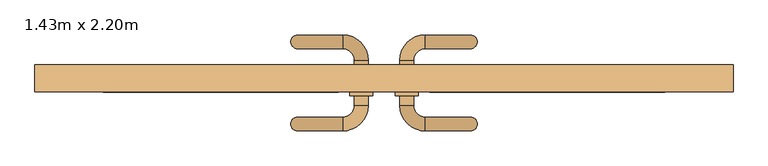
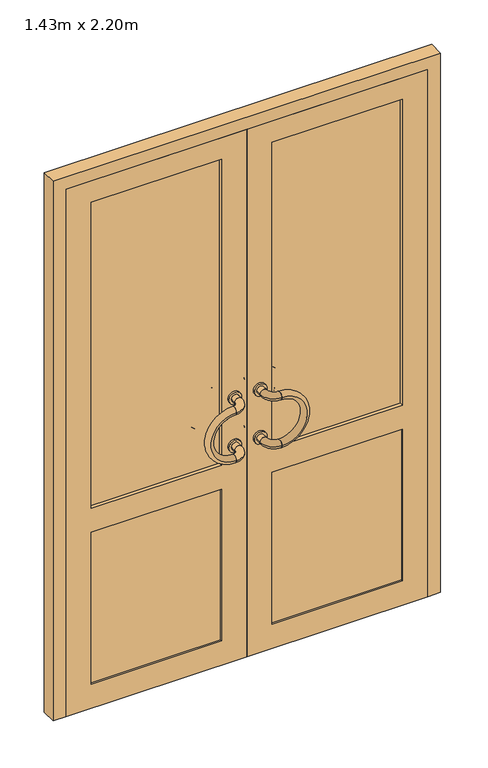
"""IFC4 building model written with IfcOpenShell, lengths in millimetres: door geometry, PVC Double - Panneaux vitrés haut : 1.43m x 2.20m."""

from ifc_helpers import new_model, si_unit, point, frame, frame_2d, origin, place, context, project, spatial, polyline, circle_curve, ellipse_curve, trimmed, segment, composite_curve, outline, extrude, faceted_brep, source, transform, mapped, element, save
from ifc_brep_helpers import plane_surface, revolved_surface, advanced_brep


def door_1_43m_x_2_20m_f836d71d(model_context):
    return source(origin(), model_context, "Body", "SolidModel", [
        extrude(outline(composite_curve([segment(trimmed(circle_curve(frame_2d((1100.0, -50.0)), 25.0), [point((1100.0, -25.0))], [point((1100.0, -75.0))], False, "CARTESIAN"), True, "CONTINUOUS"), segment(trimmed(circle_curve(frame_2d((1100.0, -50.0)), 25.0), [point((1100.0, -75.0))], [point((1100.0, -25.0))], False, "CARTESIAN"), True, "CONTINUOUS")], self_intersect=False), holes=[composite_curve([segment(trimmed(circle_curve(frame_2d((1100.0, -50.0)), 15.0), [point((1100.0, -35.0))], [point((1100.0, -65.0))], True, "CARTESIAN"), True, "CONTINUOUS"), segment(trimmed(circle_curve(frame_2d((1100.0, -50.0)), 15.0), [point((1100.0, -65.0))], [point((1100.0, -35.0))], True, "CARTESIAN"), True, "CONTINUOUS")], self_intersect=False)]), frame((0.0, -70.0, 0.0), z_axis=(0.0, 1.0, 0.0), x_axis=(0.0, 0.0, 1.0)), (0.0, 0.0, 1.0), 8.0),
        extrude(outline(composite_curve([segment(trimmed(circle_curve(frame_2d((900.0, -50.0)), 25.0), [point((900.0, -25.0))], [point((900.0, -75.0))], False, "CARTESIAN"), True, "CONTINUOUS"), segment(trimmed(circle_curve(frame_2d((900.0, -50.0)), 25.0), [point((900.0, -75.0))], [point((900.0, -25.0))], False, "CARTESIAN"), True, "CONTINUOUS")], self_intersect=False), holes=[composite_curve([segment(trimmed(circle_curve(frame_2d((900.0, -50.0)), 15.0), [point((900.0, -35.0))], [point((900.0, -65.0))], True, "CARTESIAN"), True, "CONTINUOUS"), segment(trimmed(circle_curve(frame_2d((900.0, -50.0)), 15.0), [point((900.0, -65.0))], [point((900.0, -35.0))], True, "CARTESIAN"), True, "CONTINUOUS")], self_intersect=False)]), frame((0.0, -70.0, 0.0), z_axis=(0.0, 1.0, 0.0), x_axis=(0.0, 0.0, 1.0)), (0.0, 0.0, 1.0), 8.0),
        extrude(outline(composite_curve([segment(trimmed(circle_curve(frame_2d((1100.0, -50.0)), 25.0), [point((1100.0, -25.0))], [point((1100.0, -75.0))], False, "CARTESIAN"), True, "CONTINUOUS"), segment(trimmed(circle_curve(frame_2d((1100.0, -50.0)), 25.0), [point((1100.0, -75.0))], [point((1100.0, -25.0))], False, "CARTESIAN"), True, "CONTINUOUS")], self_intersect=False), holes=[composite_curve([segment(trimmed(circle_curve(frame_2d((1100.0, -50.0)), 15.0), [point((1100.0, -35.0))], [point((1100.0, -65.0))], True, "CARTESIAN"), True, "CONTINUOUS"), segment(trimmed(circle_curve(frame_2d((1100.0, -50.0)), 15.0), [point((1100.0, -65.0))], [point((1100.0, -35.0))], True, "CARTESIAN"), True, "CONTINUOUS")], self_intersect=False)]), frame((0.0, -118.0, 0.0), z_axis=(0.0, 1.0, 0.0), x_axis=(0.0, 0.0, 1.0)), (0.0, 0.0, 1.0), 8.0),
        extrude(outline(composite_curve([segment(trimmed(circle_curve(frame_2d((900.0, -50.0)), 25.0), [point((900.0, -25.0))], [point((900.0, -75.0))], False, "CARTESIAN"), True, "CONTINUOUS"), segment(trimmed(circle_curve(frame_2d((900.0, -50.0)), 25.0), [point((900.0, -75.0))], [point((900.0, -25.0))], False, "CARTESIAN"), True, "CONTINUOUS")], self_intersect=False), holes=[composite_curve([segment(trimmed(circle_curve(frame_2d((900.0, -50.0)), 15.0), [point((900.0, -35.0))], [point((900.0, -65.0))], True, "CARTESIAN"), True, "CONTINUOUS"), segment(trimmed(circle_curve(frame_2d((900.0, -50.0)), 15.0), [point((900.0, -65.0))], [point((900.0, -35.0))], True, "CARTESIAN"), True, "CONTINUOUS")], self_intersect=False)]), frame((0.0, -118.0, 0.0), z_axis=(0.0, 1.0, 0.0), x_axis=(0.0, 0.0, 1.0)), (0.0, 0.0, 1.0), 8.0),
        advanced_brep(
        [(-90.0, 15.0, 1100.0), (-90.0, -15.0, 1100.0), (-90.0, 15.0, 900.0), (-90.0, -15.0, 900.0)],
        [
            (0, 1, circle_curve(frame((-90.0, 0.0, 1100.0), z_axis=(1.0, 0.0, 0.0), x_axis=(0.0, -1.0, 0.0)), 15.0)),
            (1, 0, circle_curve(frame((-90.0, 0.0, 1100.0), z_axis=(1.0, 0.0, 0.0), x_axis=(0.0, -1.0, 0.0)), 15.0)),
            (2, 3, circle_curve(frame((-90.0, 0.0, 900.0), z_axis=(1.0, 0.0, 0.0), x_axis=(0.0, -1.0, 0.0)), 15.0)),
            (3, 2, circle_curve(frame((-90.0, 0.0, 900.0), z_axis=(1.0, 0.0, 0.0), x_axis=(0.0, -1.0, 0.0)), 15.0)),
            (2, 0, circle_curve(frame((-90.0, 15.0, 1000.0), z_axis=(0.0, 1.0, 0.0), x_axis=(0.0, 0.0, 1.0)), 100.0)),
            (1, 3, circle_curve(frame((-90.0, -15.0, 1000.0), z_axis=(0.0, -1.0, 0.0), x_axis=(0.0, 0.0, 1.0)), 100.0)),
        ],
        [
            plane_surface(frame((-90.0, 0.0, 1000.0), z_axis=(1.0, 0.0, 0.0), x_axis=(0.0, 0.0, 1.0))),
            plane_surface(frame((-90.0, 0.0, 1000.0), z_axis=(1.0, 0.0, 0.0), x_axis=(0.0, 0.0, -1.0))),
            revolved_surface(trimmed(ellipse_curve(frame((-90.0, 0.0, 1100.0), z_axis=(-1.0, 0.0, 0.0), x_axis=(0.0, -1.0, 0.0)), 15.0, 15.0), [point((-90.0, 15.0, 1100.0))], [point((-90.0, -15.0, 1100.0))], True, "CARTESIAN"), (-90.0, 0.0, 1000.0), (0.0, 1.0, 0.0)),
            revolved_surface(trimmed(ellipse_curve(frame((-90.0, 0.0, 1100.0), z_axis=(-1.0, 0.0, 0.0), x_axis=(0.0, -1.0, 0.0)), 15.0, 15.0), [point((-90.0, -15.0, 1100.0))], [point((-90.0, 15.0, 1100.0))], True, "CARTESIAN"), (-90.0, 0.0, 1000.0), (0.0, 1.0, 0.0)),
        ],
        [
            (0, [[1, 2]]),
            (1, [[3, 4]]),
            (2, [[-3, 5, -2, 6]]),
            (3, [[-4, -6, -1, -5]]),
        ],
    ),
        advanced_brep(
        [(-65.0, -40.0, 1100.0), (-35.0, -40.0, 1100.0), (-90.0, -15.0, 1100.0), (-90.0, 15.0, 1100.0)],
        [
            (0, 1, circle_curve(frame((-50.0, -40.0, 1100.0), z_axis=(0.0, -1.0, 0.0), x_axis=(1.0, 0.0, 0.0)), 15.0)),
            (1, 0, circle_curve(frame((-50.0, -40.0, 1100.0), z_axis=(0.0, -1.0, 0.0), x_axis=(1.0, 0.0, 0.0)), 15.0)),
            (2, 3, circle_curve(frame((-90.0, 0.0, 1100.0), z_axis=(-1.0, 0.0, 0.0), x_axis=(0.0, 1.0, 0.0)), 15.0)),
            (3, 2, circle_curve(frame((-90.0, 0.0, 1100.0), z_axis=(-1.0, 0.0, 0.0), x_axis=(0.0, 1.0, 0.0)), 15.0)),
            (2, 0, circle_curve(frame((-90.0, -40.0, 1100.0), z_axis=(0.0, 0.0, -1.0), x_axis=(1.0, 0.0, 0.0)), 25.0)),
            (1, 3, circle_curve(frame((-90.0, -40.0, 1100.0), z_axis=(0.0, 0.0, 1.0), x_axis=(1.0, 0.0, 0.0)), 55.0)),
        ],
        [
            plane_surface(frame((-90.0, -40.0, 1100.0), z_axis=(0.0, -1.0, 0.0), x_axis=(1.0, 0.0, 0.0))),
            plane_surface(frame((-90.0, -40.0, 1100.0), z_axis=(-1.0, 0.0, 0.0), x_axis=(0.0, 1.0, 0.0))),
            revolved_surface(trimmed(ellipse_curve(frame((-50.0, -40.0, 1100.0), z_axis=(0.0, 1.0, 0.0), x_axis=(1.0, 0.0, 0.0)), 15.0, 15.0), [point((-65.0, -40.0, 1100.0))], [point((-35.0, -40.0, 1100.0))], True, "CARTESIAN"), (-90.0, -40.0, 1100.0), (0.0, 0.0, -1.0)),
            revolved_surface(trimmed(ellipse_curve(frame((-50.0, -40.0, 1100.0), z_axis=(0.0, 1.0, 0.0), x_axis=(1.0, 0.0, 0.0)), 15.0, 15.0), [point((-35.0, -40.0, 1100.0))], [point((-65.0, -40.0, 1100.0))], True, "CARTESIAN"), (-90.0, -40.0, 1100.0), (0.0, 0.0, -1.0)),
        ],
        [
            (0, [[1, 2]]),
            (1, [[3, 4]]),
            (2, [[-3, 5, -2, 6]]),
            (3, [[-4, -6, -1, -5]]),
        ],
    ),
        advanced_brep(
        [(-65.0, -40.0, 900.0), (-35.0, -40.0, 900.0), (-90.0, -15.0, 900.0), (-90.0, 15.0, 900.0)],
        [
            (0, 1, circle_curve(frame((-50.0, -40.0, 900.0), z_axis=(0.0, -1.0, 0.0), x_axis=(1.0, 0.0, 0.0)), 15.0)),
            (1, 0, circle_curve(frame((-50.0, -40.0, 900.0), z_axis=(0.0, -1.0, 0.0), x_axis=(1.0, 0.0, 0.0)), 15.0)),
            (2, 3, circle_curve(frame((-90.0, 0.0, 900.0), z_axis=(-1.0, 0.0, 0.0), x_axis=(0.0, 1.0, 0.0)), 15.0)),
            (3, 2, circle_curve(frame((-90.0, 0.0, 900.0), z_axis=(-1.0, 0.0, 0.0), x_axis=(0.0, 1.0, 0.0)), 15.0)),
            (2, 0, circle_curve(frame((-90.0, -40.0, 900.0), z_axis=(0.0, 0.0, -1.0), x_axis=(1.0, 0.0, 0.0)), 25.0)),
            (1, 3, circle_curve(frame((-90.0, -40.0, 900.0), z_axis=(0.0, 0.0, 1.0), x_axis=(1.0, 0.0, 0.0)), 55.0)),
        ],
        [
            plane_surface(frame((-90.0, -40.0, 1100.0), z_axis=(0.0, -1.0, 0.0), x_axis=(1.0, 0.0, 0.0))),
            plane_surface(frame((-90.0, -40.0, 1100.0), z_axis=(-1.0, 0.0, 0.0), x_axis=(0.0, 1.0, 0.0))),
            revolved_surface(trimmed(ellipse_curve(frame((-50.0, -40.0, 900.0), z_axis=(0.0, 1.0, 0.0), x_axis=(1.0, 0.0, 0.0)), 15.0, 15.0), [point((-65.0, -40.0, 900.0))], [point((-35.0, -40.0, 900.0))], True, "CARTESIAN"), (-90.0, -40.0, 1100.0), (0.0, 0.0, -1.0)),
            revolved_surface(trimmed(ellipse_curve(frame((-50.0, -40.0, 900.0), z_axis=(0.0, 1.0, 0.0), x_axis=(1.0, 0.0, 0.0)), 15.0, 15.0), [point((-35.0, -40.0, 900.0))], [point((-65.0, -40.0, 900.0))], True, "CARTESIAN"), (-90.0, -40.0, 1100.0), (0.0, 0.0, -1.0)),
        ],
        [
            (0, [[1, 2]]),
            (1, [[3, 4]]),
            (2, [[-3, 5, -2, 6]]),
            (3, [[-4, -6, -1, -5]]),
        ],
    ),
        extrude(outline(composite_curve([segment(trimmed(circle_curve(frame_2d((1100.0, -50.0)), 15.0), [point((1100.0, -35.0))], [point((1100.0, -65.0))], False, "CARTESIAN"), True, "CONTINUOUS"), segment(trimmed(circle_curve(frame_2d((1100.0, -50.0)), 15.0), [point((1100.0, -65.0))], [point((1100.0, -35.0))], False, "CARTESIAN"), True, "CONTINUOUS")], self_intersect=False)), frame((0.0, -70.0, 0.0), z_axis=(0.0, 1.0, 0.0), x_axis=(0.0, 0.0, 1.0)), (0.0, 0.0, 1.0), 30.0),
        extrude(outline(composite_curve([segment(trimmed(circle_curve(frame_2d((900.0, -50.0)), 15.0), [point((900.0, -35.0))], [point((900.0, -65.0))], False, "CARTESIAN"), True, "CONTINUOUS"), segment(trimmed(circle_curve(frame_2d((900.0, -50.0)), 15.0), [point((900.0, -65.0))], [point((900.0, -35.0))], False, "CARTESIAN"), True, "CONTINUOUS")], self_intersect=False)), frame((0.0, -70.0, 0.0), z_axis=(0.0, 1.0, 0.0), x_axis=(0.0, 0.0, 1.0)), (0.0, 0.0, 1.0), 30.0),
        advanced_brep(
        [(-90.0, -165.0, 1100.0), (-90.0, -195.0, 1100.0), (-90.0, -165.0, 900.0), (-90.0, -195.0, 900.0)],
        [
            (0, 1, circle_curve(frame((-90.0, -180.0, 1100.0), z_axis=(1.0, 0.0, 0.0), x_axis=(0.0, -1.0, 0.0)), 15.0)),
            (1, 0, circle_curve(frame((-90.0, -180.0, 1100.0), z_axis=(1.0, 0.0, 0.0), x_axis=(0.0, -1.0, 0.0)), 15.0)),
            (2, 3, circle_curve(frame((-90.0, -180.0, 900.0), z_axis=(1.0, 0.0, 0.0), x_axis=(0.0, -1.0, 0.0)), 15.0)),
            (3, 2, circle_curve(frame((-90.0, -180.0, 900.0), z_axis=(1.0, 0.0, 0.0), x_axis=(0.0, -1.0, 0.0)), 15.0)),
            (2, 0, circle_curve(frame((-90.0, -165.0, 1000.0), z_axis=(0.0, 1.0, 0.0), x_axis=(0.0, 0.0, 1.0)), 100.0)),
            (1, 3, circle_curve(frame((-90.0, -195.0, 1000.0), z_axis=(0.0, -1.0, 0.0), x_axis=(0.0, 0.0, 1.0)), 100.0)),
        ],
        [
            plane_surface(frame((-90.0, -195.0, 1000.0), z_axis=(1.0, 0.0, 0.0), x_axis=(0.0, 0.0, 1.0))),
            plane_surface(frame((-90.0, -195.0, 1000.0), z_axis=(1.0, 0.0, 0.0), x_axis=(0.0, 0.0, -1.0))),
            revolved_surface(trimmed(ellipse_curve(frame((-90.0, -180.0, 1100.0), z_axis=(-1.0, 0.0, 0.0), x_axis=(0.0, -1.0, 0.0)), 15.0, 15.0), [point((-90.0, -165.0, 1100.0))], [point((-90.0, -195.0, 1100.0))], True, "CARTESIAN"), (-90.0, -195.0, 1000.0), (0.0, 1.0, 0.0)),
            revolved_surface(trimmed(ellipse_curve(frame((-90.0, -180.0, 1100.0), z_axis=(-1.0, 0.0, 0.0), x_axis=(0.0, -1.0, 0.0)), 15.0, 15.0), [point((-90.0, -195.0, 1100.0))], [point((-90.0, -165.0, 1100.0))], True, "CARTESIAN"), (-90.0, -195.0, 1000.0), (0.0, 1.0, 0.0)),
        ],
        [
            (0, [[1, 2]]),
            (1, [[3, 4]]),
            (2, [[-3, 5, -2, 6]]),
            (3, [[-4, -6, -1, -5]]),
        ],
    ),
        advanced_brep(
        [(-35.0, -140.0, 1100.0), (-65.0, -140.0, 1100.0), (-90.0, -195.0, 1100.0), (-90.0, -165.0, 1100.0)],
        [
            (0, 1, circle_curve(frame((-50.0, -140.0, 1100.0), z_axis=(0.0, 1.0, 0.0), x_axis=(-1.0, 0.0, 0.0)), 15.0)),
            (1, 0, circle_curve(frame((-50.0, -140.0, 1100.0), z_axis=(0.0, 1.0, 0.0), x_axis=(-1.0, 0.0, 0.0)), 15.0)),
            (2, 3, circle_curve(frame((-90.0, -180.0, 1100.0), z_axis=(-1.0, 0.0, 0.0), x_axis=(0.0, 1.0, 0.0)), 15.0)),
            (3, 2, circle_curve(frame((-90.0, -180.0, 1100.0), z_axis=(-1.0, 0.0, 0.0), x_axis=(0.0, 1.0, 0.0)), 15.0)),
            (2, 0, circle_curve(frame((-90.0, -140.0, 1100.0), z_axis=(0.0, 0.0, 1.0), x_axis=(1.0, 0.0, 0.0)), 55.0)),
            (1, 3, circle_curve(frame((-90.0, -140.0, 1100.0), z_axis=(0.0, 0.0, -1.0), x_axis=(1.0, 0.0, 0.0)), 25.0)),
        ],
        [
            plane_surface(frame((-90.0, -140.0, 1100.0), z_axis=(0.0, 1.0, 0.0), x_axis=(1.0, 0.0, 0.0))),
            plane_surface(frame((-90.0, -140.0, 1100.0), z_axis=(-1.0, 0.0, 0.0), x_axis=(0.0, -1.0, 0.0))),
            revolved_surface(trimmed(ellipse_curve(frame((-50.0, -140.0, 1100.0), z_axis=(0.0, -1.0, 0.0), x_axis=(-1.0, 0.0, 0.0)), 15.0, 15.0), [point((-35.0, -140.0, 1100.0))], [point((-65.0, -140.0, 1100.0))], True, "CARTESIAN"), (-90.0, -140.0, 1100.0), (0.0, 0.0, 1.0)),
            revolved_surface(trimmed(ellipse_curve(frame((-50.0, -140.0, 1100.0), z_axis=(0.0, -1.0, 0.0), x_axis=(-1.0, 0.0, 0.0)), 15.0, 15.0), [point((-65.0, -140.0, 1100.0))], [point((-35.0, -140.0, 1100.0))], True, "CARTESIAN"), (-90.0, -140.0, 1100.0), (0.0, 0.0, 1.0)),
        ],
        [
            (0, [[1, 2]]),
            (1, [[3, 4]]),
            (2, [[-3, 5, -2, 6]]),
            (3, [[-4, -6, -1, -5]]),
        ],
    ),
        advanced_brep(
        [(-35.0, -140.0, 900.0), (-65.0, -140.0, 900.0), (-90.0, -195.0, 900.0), (-90.0, -165.0, 900.0)],
        [
            (0, 1, circle_curve(frame((-50.0, -140.0, 900.0), z_axis=(0.0, 1.0, 0.0), x_axis=(-1.0, 0.0, 0.0)), 15.0)),
            (1, 0, circle_curve(frame((-50.0, -140.0, 900.0), z_axis=(0.0, 1.0, 0.0), x_axis=(-1.0, 0.0, 0.0)), 15.0)),
            (2, 3, circle_curve(frame((-90.0, -180.0, 900.0), z_axis=(-1.0, 0.0, 0.0), x_axis=(0.0, 1.0, 0.0)), 15.0)),
            (3, 2, circle_curve(frame((-90.0, -180.0, 900.0), z_axis=(-1.0, 0.0, 0.0), x_axis=(0.0, 1.0, 0.0)), 15.0)),
            (2, 0, circle_curve(frame((-90.0, -140.0, 900.0), z_axis=(0.0, 0.0, 1.0), x_axis=(1.0, 0.0, 0.0)), 55.0)),
            (1, 3, circle_curve(frame((-90.0, -140.0, 900.0), z_axis=(0.0, 0.0, -1.0), x_axis=(1.0, 0.0, 0.0)), 25.0)),
        ],
        [
            plane_surface(frame((-90.0, -140.0, 1100.0), z_axis=(0.0, 1.0, 0.0), x_axis=(1.0, 0.0, 0.0))),
            plane_surface(frame((-90.0, -140.0, 1100.0), z_axis=(-1.0, 0.0, 0.0), x_axis=(0.0, -1.0, 0.0))),
            revolved_surface(trimmed(ellipse_curve(frame((-50.0, -140.0, 900.0), z_axis=(0.0, -1.0, 0.0), x_axis=(-1.0, 0.0, 0.0)), 15.0, 15.0), [point((-35.0, -140.0, 900.0))], [point((-65.0, -140.0, 900.0))], True, "CARTESIAN"), (-90.0, -140.0, 1100.0), (0.0, 0.0, 1.0)),
            revolved_surface(trimmed(ellipse_curve(frame((-50.0, -140.0, 900.0), z_axis=(0.0, -1.0, 0.0), x_axis=(-1.0, 0.0, 0.0)), 15.0, 15.0), [point((-65.0, -140.0, 900.0))], [point((-35.0, -140.0, 900.0))], True, "CARTESIAN"), (-90.0, -140.0, 1100.0), (0.0, 0.0, 1.0)),
        ],
        [
            (0, [[1, 2]]),
            (1, [[3, 4]]),
            (2, [[-3, 5, -2, 6]]),
            (3, [[-4, -6, -1, -5]]),
        ],
    ),
        extrude(outline(composite_curve([segment(trimmed(circle_curve(frame_2d((1100.0, -50.0)), 15.0), [point((1100.0, -35.0))], [point((1100.0, -65.0))], False, "CARTESIAN"), True, "CONTINUOUS"), segment(trimmed(circle_curve(frame_2d((1100.0, -50.0)), 15.0), [point((1100.0, -65.0))], [point((1100.0, -35.0))], False, "CARTESIAN"), True, "CONTINUOUS")], self_intersect=False)), frame((0.0, -140.0, 0.0), z_axis=(0.0, 1.0, 0.0), x_axis=(0.0, 0.0, 1.0)), (0.0, 0.0, 1.0), 30.0),
        extrude(outline(composite_curve([segment(trimmed(circle_curve(frame_2d((900.0, -50.0)), 15.0), [point((900.0, -35.0))], [point((900.0, -65.0))], False, "CARTESIAN"), True, "CONTINUOUS"), segment(trimmed(circle_curve(frame_2d((900.0, -50.0)), 15.0), [point((900.0, -65.0))], [point((900.0, -35.0))], False, "CARTESIAN"), True, "CONTINUOUS")], self_intersect=False)), frame((0.0, -140.0, 0.0), z_axis=(0.0, 1.0, 0.0), x_axis=(0.0, 0.0, 1.0)), (0.0, 0.0, 1.0), 30.0),
        extrude(outline(composite_curve([segment(trimmed(circle_curve(frame_2d((1100.0, 50.0)), 25.0), [point((1100.0, 25.0))], [point((1100.0, 75.0))], False, "CARTESIAN"), True, "CONTINUOUS"), segment(trimmed(circle_curve(frame_2d((1100.0, 50.0)), 25.0), [point((1100.0, 75.0))], [point((1100.0, 25.0))], False, "CARTESIAN"), True, "CONTINUOUS")], self_intersect=False), holes=[composite_curve([segment(trimmed(circle_curve(frame_2d((1100.0, 50.0)), 15.0), [point((1100.0, 35.0))], [point((1100.0, 65.0))], True, "CARTESIAN"), True, "CONTINUOUS"), segment(trimmed(circle_curve(frame_2d((1100.0, 50.0)), 15.0), [point((1100.0, 65.0))], [point((1100.0, 35.0))], True, "CARTESIAN"), True, "CONTINUOUS")], self_intersect=False)]), frame((0.0, -70.0, 0.0), z_axis=(0.0, 1.0, 0.0), x_axis=(0.0, 0.0, 1.0)), (0.0, 0.0, 1.0), 8.0),
        extrude(outline(composite_curve([segment(trimmed(circle_curve(frame_2d((900.0, 50.0)), 25.0), [point((900.0, 25.0))], [point((900.0, 75.0))], False, "CARTESIAN"), True, "CONTINUOUS"), segment(trimmed(circle_curve(frame_2d((900.0, 50.0)), 25.0), [point((900.0, 75.0))], [point((900.0, 25.0))], False, "CARTESIAN"), True, "CONTINUOUS")], self_intersect=False), holes=[composite_curve([segment(trimmed(circle_curve(frame_2d((900.0, 50.0)), 15.0), [point((900.0, 35.0))], [point((900.0, 65.0))], True, "CARTESIAN"), True, "CONTINUOUS"), segment(trimmed(circle_curve(frame_2d((900.0, 50.0)), 15.0), [point((900.0, 65.0))], [point((900.0, 35.0))], True, "CARTESIAN"), True, "CONTINUOUS")], self_intersect=False)]), frame((0.0, -70.0, 0.0), z_axis=(0.0, 1.0, 0.0), x_axis=(0.0, 0.0, 1.0)), (0.0, 0.0, 1.0), 8.0),
        extrude(outline(composite_curve([segment(trimmed(circle_curve(frame_2d((1100.0, 50.0)), 25.0), [point((1100.0, 25.0))], [point((1100.0, 75.0))], False, "CARTESIAN"), True, "CONTINUOUS"), segment(trimmed(circle_curve(frame_2d((1100.0, 50.0)), 25.0), [point((1100.0, 75.0))], [point((1100.0, 25.0))], False, "CARTESIAN"), True, "CONTINUOUS")], self_intersect=False), holes=[composite_curve([segment(trimmed(circle_curve(frame_2d((1100.0, 50.0)), 15.0), [point((1100.0, 35.0))], [point((1100.0, 65.0))], True, "CARTESIAN"), True, "CONTINUOUS"), segment(trimmed(circle_curve(frame_2d((1100.0, 50.0)), 15.0), [point((1100.0, 65.0))], [point((1100.0, 35.0))], True, "CARTESIAN"), True, "CONTINUOUS")], self_intersect=False)]), frame((0.0, -118.0, 0.0), z_axis=(0.0, 1.0, 0.0), x_axis=(0.0, 0.0, 1.0)), (0.0, 0.0, 1.0), 8.0),
        extrude(outline(composite_curve([segment(trimmed(circle_curve(frame_2d((900.0, 50.0)), 25.0), [point((900.0, 25.0))], [point((900.0, 75.0))], False, "CARTESIAN"), True, "CONTINUOUS"), segment(trimmed(circle_curve(frame_2d((900.0, 50.0)), 25.0), [point((900.0, 75.0))], [point((900.0, 25.0))], False, "CARTESIAN"), True, "CONTINUOUS")], self_intersect=False), holes=[composite_curve([segment(trimmed(circle_curve(frame_2d((900.0, 50.0)), 15.0), [point((900.0, 35.0))], [point((900.0, 65.0))], True, "CARTESIAN"), True, "CONTINUOUS"), segment(trimmed(circle_curve(frame_2d((900.0, 50.0)), 15.0), [point((900.0, 65.0))], [point((900.0, 35.0))], True, "CARTESIAN"), True, "CONTINUOUS")], self_intersect=False)]), frame((0.0, -118.0, 0.0), z_axis=(0.0, 1.0, 0.0), x_axis=(0.0, 0.0, 1.0)), (0.0, 0.0, 1.0), 8.0),
        advanced_brep(
        [(90.0, 15.0, 1100.0), (90.0, -15.0, 1100.0), (90.0, 15.0, 900.0), (90.0, -15.0, 900.0)],
        [
            (0, 1, circle_curve(frame((90.0, 0.0, 1100.0), z_axis=(-1.0, 0.0, 0.0), x_axis=(0.0, -1.0, 0.0)), 15.0)),
            (1, 0, circle_curve(frame((90.0, 0.0, 1100.0), z_axis=(-1.0, 0.0, 0.0), x_axis=(0.0, -1.0, 0.0)), 15.0)),
            (2, 3, circle_curve(frame((90.0, 0.0, 900.0), z_axis=(-1.0, 0.0, 0.0), x_axis=(0.0, -1.0, 0.0)), 15.0)),
            (3, 2, circle_curve(frame((90.0, 0.0, 900.0), z_axis=(-1.0, 0.0, 0.0), x_axis=(0.0, -1.0, 0.0)), 15.0)),
            (3, 1, circle_curve(frame((90.0, -15.0, 1000.0), z_axis=(0.0, -1.0, 0.0), x_axis=(0.0, 0.0, 1.0)), 100.0)),
            (0, 2, circle_curve(frame((90.0, 15.0, 1000.0), z_axis=(0.0, 1.0, 0.0), x_axis=(0.0, 0.0, 1.0)), 100.0)),
        ],
        [
            plane_surface(frame((90.0, 0.0, 1000.0), z_axis=(-1.0, 0.0, 0.0), x_axis=(0.0, 0.0, 1.0))),
            plane_surface(frame((90.0, 0.0, 1000.0), z_axis=(-1.0, 0.0, 0.0), x_axis=(0.0, 0.0, -1.0))),
            revolved_surface(trimmed(ellipse_curve(frame((90.0, 0.0, 1100.0), z_axis=(-1.0, 0.0, 0.0), x_axis=(0.0, -1.0, 0.0)), 15.0, 15.0), [point((90.0, 15.0, 1100.0))], [point((90.0, -15.0, 1100.0))], True, "CARTESIAN"), (90.0, 0.0, 1000.0), (0.0, 1.0, 0.0)),
            revolved_surface(trimmed(ellipse_curve(frame((90.0, 0.0, 1100.0), z_axis=(-1.0, 0.0, 0.0), x_axis=(0.0, -1.0, 0.0)), 15.0, 15.0), [point((90.0, -15.0, 1100.0))], [point((90.0, 15.0, 1100.0))], True, "CARTESIAN"), (90.0, 0.0, 1000.0), (0.0, 1.0, 0.0)),
        ],
        [
            (0, [[1, 2]]),
            (1, [[3, 4]]),
            (2, [[5, -1, 6, -4]]),
            (3, [[-6, -2, -5, -3]]),
        ],
    ),
        advanced_brep(
        [(65.0, -40.0, 1100.0), (35.0, -40.0, 1100.0), (90.0, -15.0, 1100.0), (90.0, 15.0, 1100.0)],
        [
            (0, 1, circle_curve(frame((50.0, -40.0, 1100.0), z_axis=(0.0, -1.0, 0.0), x_axis=(-1.0, 0.0, 0.0)), 15.0)),
            (1, 0, circle_curve(frame((50.0, -40.0, 1100.0), z_axis=(0.0, -1.0, 0.0), x_axis=(-1.0, 0.0, 0.0)), 15.0)),
            (2, 3, circle_curve(frame((90.0, 0.0, 1100.0), z_axis=(1.0, 0.0, 0.0), x_axis=(0.0, 1.0, 0.0)), 15.0)),
            (3, 2, circle_curve(frame((90.0, 0.0, 1100.0), z_axis=(1.0, 0.0, 0.0), x_axis=(0.0, 1.0, 0.0)), 15.0)),
            (3, 1, circle_curve(frame((90.0, -40.0, 1100.0), z_axis=(0.0, 0.0, 1.0), x_axis=(-1.0, 0.0, 0.0)), 55.0)),
            (0, 2, circle_curve(frame((90.0, -40.0, 1100.0), z_axis=(0.0, 0.0, -1.0), x_axis=(-1.0, 0.0, 0.0)), 25.0)),
        ],
        [
            plane_surface(frame((90.0, -40.0, 1100.0), z_axis=(0.0, -1.0, 0.0), x_axis=(-1.0, 0.0, 0.0))),
            plane_surface(frame((90.0, -40.0, 1100.0), z_axis=(1.0, 0.0, 0.0), x_axis=(0.0, 1.0, 0.0))),
            revolved_surface(trimmed(ellipse_curve(frame((50.0, -40.0, 1100.0), z_axis=(0.0, -1.0, 0.0), x_axis=(-1.0, 0.0, 0.0)), 15.0, 15.0), [point((65.0, -40.0, 1100.0))], [point((35.0, -40.0, 1100.0))], True, "CARTESIAN"), (90.0, -40.0, 1100.0), (0.0, 0.0, -1.0)),
            revolved_surface(trimmed(ellipse_curve(frame((50.0, -40.0, 1100.0), z_axis=(0.0, -1.0, 0.0), x_axis=(-1.0, 0.0, 0.0)), 15.0, 15.0), [point((35.0, -40.0, 1100.0))], [point((65.0, -40.0, 1100.0))], True, "CARTESIAN"), (90.0, -40.0, 1100.0), (0.0, 0.0, -1.0)),
        ],
        [
            (0, [[1, 2]]),
            (1, [[3, 4]]),
            (2, [[5, -1, 6, -4]]),
            (3, [[-6, -2, -5, -3]]),
        ],
    ),
        advanced_brep(
        [(65.0, -40.0, 900.0), (35.0, -40.0, 900.0), (90.0, -15.0, 900.0), (90.0, 15.0, 900.0)],
        [
            (0, 1, circle_curve(frame((50.0, -40.0, 900.0), z_axis=(0.0, -1.0, 0.0), x_axis=(-1.0, 0.0, 0.0)), 15.0)),
            (1, 0, circle_curve(frame((50.0, -40.0, 900.0), z_axis=(0.0, -1.0, 0.0), x_axis=(-1.0, 0.0, 0.0)), 15.0)),
            (2, 3, circle_curve(frame((90.0, 0.0, 900.0), z_axis=(1.0, 0.0, 0.0), x_axis=(0.0, 1.0, 0.0)), 15.0)),
            (3, 2, circle_curve(frame((90.0, 0.0, 900.0), z_axis=(1.0, 0.0, 0.0), x_axis=(0.0, 1.0, 0.0)), 15.0)),
            (3, 1, circle_curve(frame((90.0, -40.0, 900.0), z_axis=(0.0, 0.0, 1.0), x_axis=(-1.0, 0.0, 0.0)), 55.0)),
            (0, 2, circle_curve(frame((90.0, -40.0, 900.0), z_axis=(0.0, 0.0, -1.0), x_axis=(-1.0, 0.0, 0.0)), 25.0)),
        ],
        [
            plane_surface(frame((90.0, -40.0, 1100.0), z_axis=(0.0, -1.0, 0.0), x_axis=(-1.0, 0.0, 0.0))),
            plane_surface(frame((90.0, -40.0, 1100.0), z_axis=(1.0, 0.0, 0.0), x_axis=(0.0, 1.0, 0.0))),
            revolved_surface(trimmed(ellipse_curve(frame((50.0, -40.0, 900.0), z_axis=(0.0, -1.0, 0.0), x_axis=(-1.0, 0.0, 0.0)), 15.0, 15.0), [point((65.0, -40.0, 900.0))], [point((35.0, -40.0, 900.0))], True, "CARTESIAN"), (90.0, -40.0, 1100.0), (0.0, 0.0, -1.0)),
            revolved_surface(trimmed(ellipse_curve(frame((50.0, -40.0, 900.0), z_axis=(0.0, -1.0, 0.0), x_axis=(-1.0, 0.0, 0.0)), 15.0, 15.0), [point((35.0, -40.0, 900.0))], [point((65.0, -40.0, 900.0))], True, "CARTESIAN"), (90.0, -40.0, 1100.0), (0.0, 0.0, -1.0)),
        ],
        [
            (0, [[1, 2]]),
            (1, [[3, 4]]),
            (2, [[5, -1, 6, -4]]),
            (3, [[-6, -2, -5, -3]]),
        ],
    ),
        extrude(outline(composite_curve([segment(trimmed(circle_curve(frame_2d((1100.0, 50.0)), 15.0), [point((1100.0, 35.0))], [point((1100.0, 65.0))], False, "CARTESIAN"), True, "CONTINUOUS"), segment(trimmed(circle_curve(frame_2d((1100.0, 50.0)), 15.0), [point((1100.0, 65.0))], [point((1100.0, 35.0))], False, "CARTESIAN"), True, "CONTINUOUS")], self_intersect=False)), frame((0.0, -70.0, 0.0), z_axis=(0.0, 1.0, 0.0), x_axis=(0.0, 0.0, 1.0)), (0.0, 0.0, 1.0), 30.0),
        extrude(outline(composite_curve([segment(trimmed(circle_curve(frame_2d((900.0, 50.0)), 15.0), [point((900.0, 35.0))], [point((900.0, 65.0))], False, "CARTESIAN"), True, "CONTINUOUS"), segment(trimmed(circle_curve(frame_2d((900.0, 50.0)), 15.0), [point((900.0, 65.0))], [point((900.0, 35.0))], False, "CARTESIAN"), True, "CONTINUOUS")], self_intersect=False)), frame((0.0, -70.0, 0.0), z_axis=(0.0, 1.0, 0.0), x_axis=(0.0, 0.0, 1.0)), (0.0, 0.0, 1.0), 30.0),
        advanced_brep(
        [(90.0, -165.0, 1100.0), (90.0, -195.0, 1100.0), (90.0, -165.0, 900.0), (90.0, -195.0, 900.0)],
        [
            (0, 1, circle_curve(frame((90.0, -180.0, 1100.0), z_axis=(-1.0, 0.0, 0.0), x_axis=(0.0, -1.0, 0.0)), 15.0)),
            (1, 0, circle_curve(frame((90.0, -180.0, 1100.0), z_axis=(-1.0, 0.0, 0.0), x_axis=(0.0, -1.0, 0.0)), 15.0)),
            (2, 3, circle_curve(frame((90.0, -180.0, 900.0), z_axis=(-1.0, 0.0, 0.0), x_axis=(0.0, -1.0, 0.0)), 15.0)),
            (3, 2, circle_curve(frame((90.0, -180.0, 900.0), z_axis=(-1.0, 0.0, 0.0), x_axis=(0.0, -1.0, 0.0)), 15.0)),
            (3, 1, circle_curve(frame((90.0, -195.0, 1000.0), z_axis=(0.0, -1.0, 0.0), x_axis=(0.0, 0.0, 1.0)), 100.0)),
            (0, 2, circle_curve(frame((90.0, -165.0, 1000.0), z_axis=(0.0, 1.0, 0.0), x_axis=(0.0, 0.0, 1.0)), 100.0)),
        ],
        [
            plane_surface(frame((90.0, -195.0, 1000.0), z_axis=(-1.0, 0.0, 0.0), x_axis=(0.0, 0.0, 1.0))),
            plane_surface(frame((90.0, -195.0, 1000.0), z_axis=(-1.0, 0.0, 0.0), x_axis=(0.0, 0.0, -1.0))),
            revolved_surface(trimmed(ellipse_curve(frame((90.0, -180.0, 1100.0), z_axis=(-1.0, 0.0, 0.0), x_axis=(0.0, -1.0, 0.0)), 15.0, 15.0), [point((90.0, -165.0, 1100.0))], [point((90.0, -195.0, 1100.0))], True, "CARTESIAN"), (90.0, -195.0, 1000.0), (0.0, 1.0, 0.0)),
            revolved_surface(trimmed(ellipse_curve(frame((90.0, -180.0, 1100.0), z_axis=(-1.0, 0.0, 0.0), x_axis=(0.0, -1.0, 0.0)), 15.0, 15.0), [point((90.0, -195.0, 1100.0))], [point((90.0, -165.0, 1100.0))], True, "CARTESIAN"), (90.0, -195.0, 1000.0), (0.0, 1.0, 0.0)),
        ],
        [
            (0, [[1, 2]]),
            (1, [[3, 4]]),
            (2, [[5, -1, 6, -4]]),
            (3, [[-6, -2, -5, -3]]),
        ],
    ),
        advanced_brep(
        [(35.0, -140.0, 1100.0), (65.0, -140.0, 1100.0), (90.0, -195.0, 1100.0), (90.0, -165.0, 1100.0)],
        [
            (0, 1, circle_curve(frame((50.0, -140.0, 1100.0), z_axis=(0.0, 1.0, 0.0), x_axis=(1.0, 0.0, 0.0)), 15.0)),
            (1, 0, circle_curve(frame((50.0, -140.0, 1100.0), z_axis=(0.0, 1.0, 0.0), x_axis=(1.0, 0.0, 0.0)), 15.0)),
            (2, 3, circle_curve(frame((90.0, -180.0, 1100.0), z_axis=(1.0, 0.0, 0.0), x_axis=(0.0, 1.0, 0.0)), 15.0)),
            (3, 2, circle_curve(frame((90.0, -180.0, 1100.0), z_axis=(1.0, 0.0, 0.0), x_axis=(0.0, 1.0, 0.0)), 15.0)),
            (3, 1, circle_curve(frame((90.0, -140.0, 1100.0), z_axis=(0.0, 0.0, -1.0), x_axis=(-1.0, 0.0, 0.0)), 25.0)),
            (0, 2, circle_curve(frame((90.0, -140.0, 1100.0), z_axis=(0.0, 0.0, 1.0), x_axis=(-1.0, 0.0, 0.0)), 55.0)),
        ],
        [
            plane_surface(frame((90.0, -140.0, 1100.0), z_axis=(0.0, 1.0, 0.0), x_axis=(-1.0, 0.0, 0.0))),
            plane_surface(frame((90.0, -140.0, 1100.0), z_axis=(1.0, 0.0, 0.0), x_axis=(0.0, -1.0, 0.0))),
            revolved_surface(trimmed(ellipse_curve(frame((50.0, -140.0, 1100.0), z_axis=(0.0, 1.0, 0.0), x_axis=(1.0, 0.0, 0.0)), 15.0, 15.0), [point((35.0, -140.0, 1100.0))], [point((65.0, -140.0, 1100.0))], True, "CARTESIAN"), (90.0, -140.0, 1100.0), (0.0, 0.0, 1.0)),
            revolved_surface(trimmed(ellipse_curve(frame((50.0, -140.0, 1100.0), z_axis=(0.0, 1.0, 0.0), x_axis=(1.0, 0.0, 0.0)), 15.0, 15.0), [point((65.0, -140.0, 1100.0))], [point((35.0, -140.0, 1100.0))], True, "CARTESIAN"), (90.0, -140.0, 1100.0), (0.0, 0.0, 1.0)),
        ],
        [
            (0, [[1, 2]]),
            (1, [[3, 4]]),
            (2, [[5, -1, 6, -4]]),
            (3, [[-6, -2, -5, -3]]),
        ],
    ),
        advanced_brep(
        [(35.0, -140.0, 900.0), (65.0, -140.0, 900.0), (90.0, -195.0, 900.0), (90.0, -165.0, 900.0)],
        [
            (0, 1, circle_curve(frame((50.0, -140.0, 900.0), z_axis=(0.0, 1.0, 0.0), x_axis=(1.0, 0.0, 0.0)), 15.0)),
            (1, 0, circle_curve(frame((50.0, -140.0, 900.0), z_axis=(0.0, 1.0, 0.0), x_axis=(1.0, 0.0, 0.0)), 15.0)),
            (2, 3, circle_curve(frame((90.0, -180.0, 900.0), z_axis=(1.0, 0.0, 0.0), x_axis=(0.0, 1.0, 0.0)), 15.0)),
            (3, 2, circle_curve(frame((90.0, -180.0, 900.0), z_axis=(1.0, 0.0, 0.0), x_axis=(0.0, 1.0, 0.0)), 15.0)),
            (3, 1, circle_curve(frame((90.0, -140.0, 900.0), z_axis=(0.0, 0.0, -1.0), x_axis=(-1.0, 0.0, 0.0)), 25.0)),
            (0, 2, circle_curve(frame((90.0, -140.0, 900.0), z_axis=(0.0, 0.0, 1.0), x_axis=(-1.0, 0.0, 0.0)), 55.0)),
        ],
        [
            plane_surface(frame((90.0, -140.0, 1100.0), z_axis=(0.0, 1.0, 0.0), x_axis=(-1.0, 0.0, 0.0))),
            plane_surface(frame((90.0, -140.0, 1100.0), z_axis=(1.0, 0.0, 0.0), x_axis=(0.0, -1.0, 0.0))),
            revolved_surface(trimmed(ellipse_curve(frame((50.0, -140.0, 900.0), z_axis=(0.0, 1.0, 0.0), x_axis=(1.0, 0.0, 0.0)), 15.0, 15.0), [point((35.0, -140.0, 900.0))], [point((65.0, -140.0, 900.0))], True, "CARTESIAN"), (90.0, -140.0, 1100.0), (0.0, 0.0, 1.0)),
            revolved_surface(trimmed(ellipse_curve(frame((50.0, -140.0, 900.0), z_axis=(0.0, 1.0, 0.0), x_axis=(1.0, 0.0, 0.0)), 15.0, 15.0), [point((65.0, -140.0, 900.0))], [point((35.0, -140.0, 900.0))], True, "CARTESIAN"), (90.0, -140.0, 1100.0), (0.0, 0.0, 1.0)),
        ],
        [
            (0, [[1, 2]]),
            (1, [[3, 4]]),
            (2, [[5, -1, 6, -4]]),
            (3, [[-6, -2, -5, -3]]),
        ],
    ),
        extrude(outline(composite_curve([segment(trimmed(circle_curve(frame_2d((1100.0, 50.0)), 15.0), [point((1100.0, 35.0))], [point((1100.0, 65.0))], False, "CARTESIAN"), True, "CONTINUOUS"), segment(trimmed(circle_curve(frame_2d((1100.0, 50.0)), 15.0), [point((1100.0, 65.0))], [point((1100.0, 35.0))], False, "CARTESIAN"), True, "CONTINUOUS")], self_intersect=False)), frame((0.0, -140.0, 0.0), z_axis=(0.0, 1.0, 0.0), x_axis=(0.0, 0.0, 1.0)), (0.0, 0.0, 1.0), 30.0),
        extrude(outline(composite_curve([segment(trimmed(circle_curve(frame_2d((900.0, 50.0)), 15.0), [point((900.0, 35.0))], [point((900.0, 65.0))], False, "CARTESIAN"), True, "CONTINUOUS"), segment(trimmed(circle_curve(frame_2d((900.0, 50.0)), 15.0), [point((900.0, 65.0))], [point((900.0, 35.0))], False, "CARTESIAN"), True, "CONTINUOUS")], self_intersect=False)), frame((0.0, -140.0, 0.0), z_axis=(0.0, 1.0, 0.0), x_axis=(0.0, 0.0, 1.0)), (0.0, 0.0, 1.0), 30.0),
        faceted_brep([(-765.0, -110.0, 0.0), (-765.0, -50.0, 0.0), (-700.0, -50.0, 0.0), (-700.0, -70.0, 0.0), (-715.0, -70.0, 0.0), (-715.0, -110.0, 0.0), (-765.0, -110.0, 2250.0), (-765.0, -50.0, 2250.0), (765.0, -50.0, 2250.0), (765.0, -50.0, 0.0), (700.0, -50.0, 0.0), (700.0, -50.0, 2185.0), (-700.0, -50.0, 2185.0), (-700.0, -70.0, 2185.0), (700.0, -70.0, 2185.0), (700.0, -70.0, 0.0), (715.0, -70.0, 0.0), (715.0, -70.0, 2200.0), (-715.0, -70.0, 2200.0), (-715.0, -110.0, 2200.0), (715.0, -110.0, 2200.0), (715.0, -110.0, 0.0), (765.0, -110.0, 0.0), (765.0, -110.0, 2250.0)], [[[0, 1, 2, 3, 4, 5]], [[1, 0, 6, 7]], [[2, 1, 7, 8, 9, 10, 11, 12]], [[3, 2, 12, 13]], [[4, 3, 13, 14, 15, 16, 17, 18]], [[5, 4, 18, 19]], [[0, 5, 19, 20, 21, 22, 23, 6]], [[9, 8, 23, 22]], [[10, 9, 22, 21, 16, 15]], [[11, 10, 15, 14]], [[17, 16, 21, 20]], [[7, 6, 23, 8]], [[12, 11, 14, 13]], [[18, 17, 20, 19]]]),
        extrude(outline(polyline([(-100.0, -95.0), (-615.0, -95.0), (-615.0, -85.0), (-100.0, -85.0), (-100.0, -95.0)])), frame((0.0, 0.0, 833.3333333), z_axis=(0.0, 0.0, 1.0), x_axis=(1.0, 0.0, 0.0)), (0.0, 0.0, 1.0), 1276.6666667),
        extrude(outline(polyline([(615.0, -95.0), (100.0, -95.0), (100.0, -85.0), (615.0, -85.0), (615.0, -95.0)])), frame((0.0, 0.0, 833.3333333), z_axis=(0.0, 0.0, 1.0), x_axis=(1.0, 0.0, 0.0)), (0.0, 0.0, 1.0), 1276.6666667),
        faceted_brep([(715.0, -110.0, 2200.0), (0.0, -110.0, 2200.0), (0.0, -110.0, 0.0), (715.0, -110.0, 0.0), (615.0, -110.0, 2110.0), (615.0, -110.0, 833.3333333), (100.0, -110.0, 833.3333333), (100.0, -110.0, 2110.0), (615.0, -110.0, 100.0), (100.0, -110.0, 100.0), (100.0, -110.0, 733.3333333), (615.0, -110.0, 733.3333333), (715.0, -70.0, 2200.0), (715.0, -70.0, 0.0), (0.0, -70.0, 0.0), (0.0, -70.0, 2200.0), (615.0, -70.0, 2110.0), (100.0, -70.0, 2110.0), (100.0, -70.0, 833.3333333), (615.0, -70.0, 833.3333333), (100.0, -70.0, 100.0), (615.0, -70.0, 100.0), (615.0, -70.0, 733.3333333), (100.0, -70.0, 733.3333333), (615.0, -102.0, 100.0), (615.0, -102.0, 733.3333333), (100.0, -102.0, 733.3333333), (100.0, -102.0, 100.0), (100.0, -78.0, 100.0), (100.0, -78.0, 733.3333333), (615.0, -78.0, 733.3333333), (615.0, -78.0, 100.0)], [[[0, 1, 2, 3], [4, 5, 6, 7], [8, 9, 10, 11]], [[12, 13, 14, 15], [16, 17, 18, 19], [20, 21, 22, 23]], [[1, 0, 12, 15]], [[2, 1, 15, 14]], [[3, 2, 14, 13]], [[0, 3, 13, 12]], [[5, 4, 16, 19]], [[6, 5, 19, 18]], [[7, 6, 18, 17]], [[4, 7, 17, 16]], [[24, 25, 26, 27]], [[24, 27, 9, 8]], [[27, 26, 10, 9]], [[26, 25, 11, 10]], [[25, 24, 8, 11]], [[28, 29, 30, 31]], [[28, 31, 21, 20]], [[31, 30, 22, 21]], [[30, 29, 23, 22]], [[29, 28, 20, 23]]]),
        faceted_brep([(-715.0, -110.0, 2200.0), (-715.0, -110.0, 0.0), (0.0, -110.0, 0.0), (0.0, -110.0, 2200.0), (-100.0, -110.0, 2110.0), (-100.0, -110.0, 833.3333333), (-615.0, -110.0, 833.3333333), (-615.0, -110.0, 2110.0), (-100.0, -110.0, 733.3333333), (-100.0, -110.0, 100.0), (-615.0, -110.0, 100.0), (-615.0, -110.0, 733.3333333), (-715.0, -70.0, 2200.0), (0.0, -70.0, 2200.0), (0.0, -70.0, 0.0), (-715.0, -70.0, 0.0), (-100.0, -70.0, 2110.0), (-615.0, -70.0, 2110.0), (-615.0, -70.0, 833.3333333), (-100.0, -70.0, 833.3333333), (-615.0, -70.0, 100.0), (-100.0, -70.0, 100.0), (-100.0, -70.0, 733.3333333), (-615.0, -70.0, 733.3333333), (-100.0, -102.0, 733.3333333), (-615.0, -102.0, 733.3333333), (-615.0, -102.0, 100.0), (-100.0, -102.0, 100.0), (-615.0, -78.0, 100.0), (-615.0, -78.0, 733.3333333), (-100.0, -78.0, 733.3333333), (-100.0, -78.0, 100.0)], [[[0, 1, 2, 3], [4, 5, 6, 7], [8, 9, 10, 11]], [[12, 13, 14, 15], [16, 17, 18, 19], [20, 21, 22, 23]], [[1, 0, 12, 15]], [[2, 1, 15, 14]], [[3, 2, 14, 13]], [[0, 3, 13, 12]], [[5, 4, 16, 19]], [[6, 5, 19, 18]], [[7, 6, 18, 17]], [[4, 7, 17, 16]], [[24, 25, 26, 27]], [[24, 27, 9, 8]], [[27, 26, 10, 9]], [[26, 25, 11, 10]], [[25, 24, 8, 11]], [[28, 29, 30, 31]], [[28, 31, 21, 20]], [[31, 30, 22, 21]], [[30, 29, 23, 22]], [[29, 28, 20, 23]]]),
    ])


if __name__ == "__main__":
    model = new_model("IFC4")
    model_context = context("Model", 3, world=origin())
    ifc_project = project(units=[si_unit("LENGTHUNIT", "METRE", prefix="MILLI")], contexts=[model_context])
    site = spatial("IfcSite", under=ifc_project)
    building = spatial("IfcBuilding", under=site)
    placement = place(None, origin())
    door_1_43m_x_2_20m_shape = door_1_43m_x_2_20m_f836d71d(model_context)
    element("IfcDoor", 1, ObjectType="PVC Double - Panneaux vitrés haut : 1.43m x 2.20m", at=placement, inside=building, context=model_context, shape_type="MappedRepresentation", body=[
        mapped(door_1_43m_x_2_20m_shape, transform((0.0, 0.0, 0.0), x_axis=(1.0, 0.0, 0.0), y_axis=(0.0, 1.0, 0.0), z_axis=(0.0, 0.0, 1.0))),
    ])
    save(model, "model.ifc")
